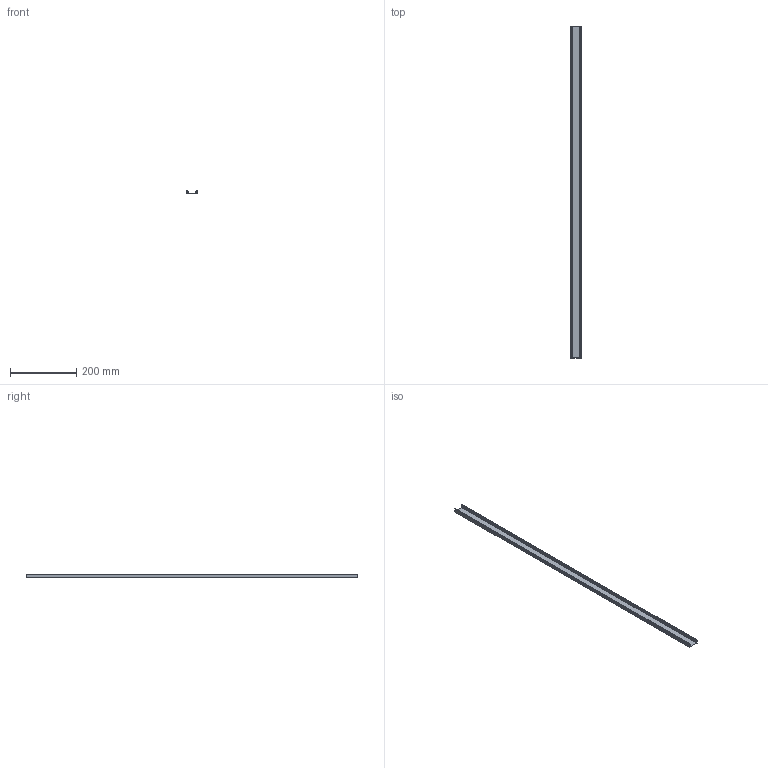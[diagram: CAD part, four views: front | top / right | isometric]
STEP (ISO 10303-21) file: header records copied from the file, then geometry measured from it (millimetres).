
FILE_DESCRIPTION(/* description */ (''),/* implementation_level */ '2;1');
FILE_NAME(/* name */ 'C:\Users\Agata\Desktop\Profile uproszczone\Wide24_uproszczony_R3D.stp',/* time_stamp */ '2026-03-26T14:58:59+01:00',/* author */ ('Agata'),/* organization */ (''),/* preprocessor_version */ 'ST-DEVELOPER v18.1',/* originating_system */ 'Autodesk Inventor 2022',/* authorisation */ '');
FILE_SCHEMA (('AUTOMOTIVE_DESIGN { 1 0 10303 214 3 1 1 }'));
Length unit declared in the file: millimetre
Products named in the file (1): Wide24_uproszczony_R3D
Bounding box: 32 x 1000 x 11 mm (x, y, z)
Volume: 85492.7 mm3; surface area: 140237.2 mm2
Topology: 1 solids, 1 shells, 50 faces, 144 edges, 96 vertices
Faces by surface type: plane 46, cylinder 4
Entity records: 1657 total; most frequent: CARTESIAN_POINT 291, ORIENTED_EDGE 288, DIRECTION 254, EDGE_CURVE 144, LINE 136, VECTOR 136, VERTEX_POINT 96, AXIS2_PLACEMENT_3D 59
